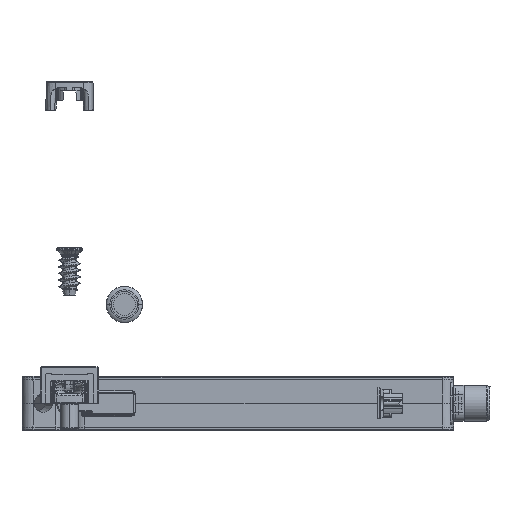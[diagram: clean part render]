
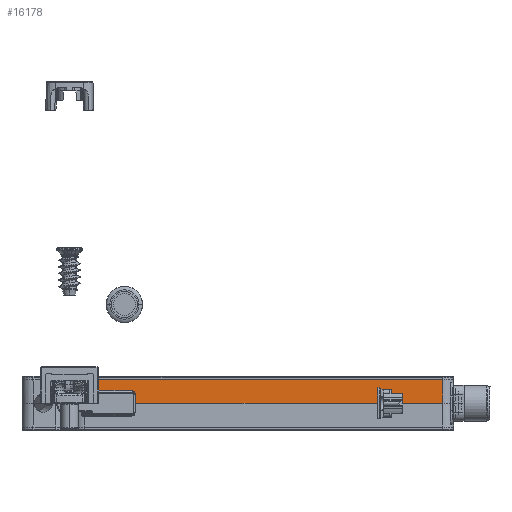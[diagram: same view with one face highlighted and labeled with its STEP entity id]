
A CAD part, left-side view. The second image highlights one B-rep face of the part: STEP entity #16178.
In plain terms, the highlighted planar face has unit normal (-1, 0, -0.018).
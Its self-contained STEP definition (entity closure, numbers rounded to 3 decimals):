
#1769=DIRECTION('',(0.,1.,0.));
#1770=VECTOR('',#1769,6.187);
#1771=CARTESIAN_POINT('',(0.113,94.55,7.4));
#1772=LINE('',#1771,#1770);
#1773=DIRECTION('',(-0.017,0.017,1.));
#1774=VECTOR('',#1773,6.502);
#1775=CARTESIAN_POINT('',(0.113,100.737,7.4));
#1776=LINE('',#1775,#1774);
#1777=DIRECTION('',(0.017,0.017,-1.));
#1778=VECTOR('',#1777,6.502);
#1779=CARTESIAN_POINT('',(0.,3.,13.9));
#1780=LINE('',#1779,#1778);
#1781=DIRECTION('',(0.,1.,0.));
#1782=VECTOR('',#1781,84.337);
#1783=CARTESIAN_POINT('',(0.113,3.113,7.4));
#1784=LINE('',#1783,#1782);
#2801=DIRECTION('',(0.,1.,0.));
#2802=VECTOR('',#2801,97.848);
#2803=CARTESIAN_POINT('',(0.,3.,13.9));
#2804=LINE('',#2803,#2802);
#11096=CARTESIAN_POINT('',(0.113,94.55,7.4));
#11097=CARTESIAN_POINT('',(0.11,94.55,
7.598));
#11098=CARTESIAN_POINT('',(0.103,94.517,
7.987));
#11099=CARTESIAN_POINT('',(0.093,94.373,
8.558));
#11100=CARTESIAN_POINT('',(0.084,94.136,
9.098));
#11101=CARTESIAN_POINT('',(0.075,93.815,
9.59));
#11102=CARTESIAN_POINT('',(0.068,93.415,
10.024));
#11103=CARTESIAN_POINT('',(0.061,92.95,
10.385));
#11104=CARTESIAN_POINT('',(0.056,92.433,
10.666));
#11105=CARTESIAN_POINT('',(0.053,91.875,
10.857));
#11106=CARTESIAN_POINT('',(0.051,91.295,
10.954));
#11107=CARTESIAN_POINT('',(0.051,90.705,
10.954));
#11108=CARTESIAN_POINT('',(0.053,90.125,
10.857));
#11109=CARTESIAN_POINT('',(0.056,89.567,
10.666));
#11110=CARTESIAN_POINT('',(0.061,89.05,
10.385));
#11111=CARTESIAN_POINT('',(0.068,88.585,
10.024));
#11112=CARTESIAN_POINT('',(0.075,88.185,
9.59));
#11113=CARTESIAN_POINT('',(0.084,87.864,
9.098));
#11114=CARTESIAN_POINT('',(0.093,87.627,
8.558));
#11115=CARTESIAN_POINT('',(0.103,87.483,
7.987));
#11116=CARTESIAN_POINT('',(0.11,87.45,
7.598));
#11117=CARTESIAN_POINT('',(0.113,87.45,7.4));
#12352=CARTESIAN_POINT('',(0.113,94.55,7.4));
#12353=CARTESIAN_POINT('',(0.113,100.737,7.4));
#12354=VERTEX_POINT('',#12352);
#12355=VERTEX_POINT('',#12353);
#12356=CARTESIAN_POINT('',(0.,100.849,
13.9));
#12357=VERTEX_POINT('',#12356);
#12358=CARTESIAN_POINT('',(0.,3.,
13.9));
#12359=VERTEX_POINT('',#12358);
#12360=CARTESIAN_POINT('',(0.113,3.113,
7.4));
#12361=VERTEX_POINT('',#12360);
#12362=CARTESIAN_POINT('',(0.113,87.45,7.4));
#12363=VERTEX_POINT('',#12362);
#16162=CARTESIAN_POINT('',(0.,118.,13.9));
#16163=DIRECTION('',(1.,0.,0.017));
#16164=DIRECTION('',(0.,-1.,0.));
#16165=AXIS2_PLACEMENT_3D('',#16162,#16163,#16164);
#16166=PLANE('',#16165);
#16167=ORIENTED_EDGE('',*,*,#16147,.T.);
#16169=ORIENTED_EDGE('',*,*,#16168,.T.);
#16171=ORIENTED_EDGE('',*,*,#16170,.F.);
#16172=ORIENTED_EDGE('',*,*,#16121,.T.);
#16173=ORIENTED_EDGE('',*,*,#16153,.T.);
#16175=ORIENTED_EDGE('',*,*,#16174,.F.);
#16176=EDGE_LOOP('',(#16167,#16169,#16171,#16172,#16173,#16175));
#16177=FACE_OUTER_BOUND('',#16176,.F.);
#16178=ADVANCED_FACE('',(#16177),#16166,.F.);
#11118=B_SPLINE_CURVE_WITH_KNOTS('',3,(#11096,#11097,#11098,#11099,#11100,
#11101,#11102,#11103,#11104,#11105,#11106,#11107,#11108,#11109,#11110,#11111,
#11112,#11113,#11114,#11115,#11116,#11117),.UNSPECIFIED.,.F.,.F.,(4,1,1,1,1,1,1,
1,1,1,1,1,1,1,1,1,1,1,1,4),(0.,0.053,0.105,
0.158,0.211,0.263,0.316,
0.368,0.421,0.474,0.526,
0.579,0.632,0.684,0.737,
0.789,0.842,0.895,0.947,1.),
.UNSPECIFIED.);
#16121=EDGE_CURVE('',#12359,#12361,#1780,.T.);
#16147=EDGE_CURVE('',#12354,#12355,#1772,.T.);
#16153=EDGE_CURVE('',#12361,#12363,#1784,.T.);
#16168=EDGE_CURVE('',#12355,#12357,#1776,.T.);
#16170=EDGE_CURVE('',#12359,#12357,#2804,.T.);
#16174=EDGE_CURVE('',#12354,#12363,#11118,.T.);
